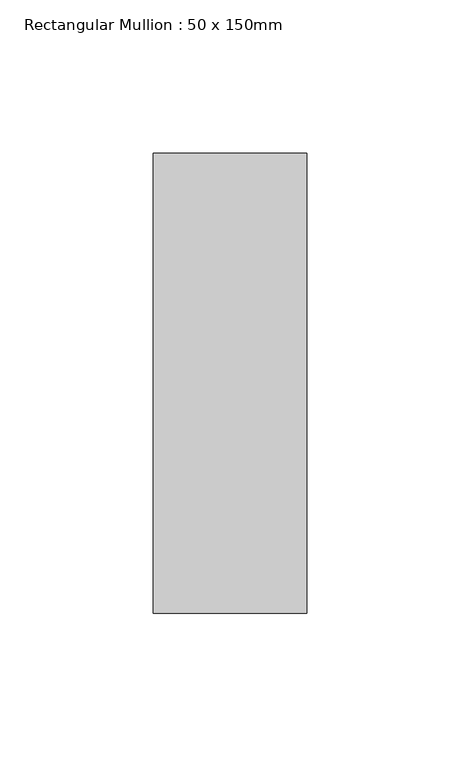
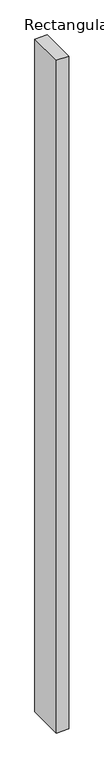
"""IFC4 building model written with IfcOpenShell, lengths in millimetres: member geometry, Rectangular Mullion : 50 x 150mm."""

import ifcopenshell
import ifcopenshell.guid

model = None  # the IFC model being written
_history = None  # IfcOwnerHistory: only IFC2X3 demands one
_inside = {}  # id of a spatial element -> (the spatial element, [elements in it])
_under = {}  # id of a project, library or spatial element -> (it, [spatial elements below it])
_declared = {}  # id of a project -> (the project, [libraries it declares])
_typed = {}  # id of a type object -> (the type object, [elements of that type])
_made_of = {}  # id of a material, layer set ... -> (it, [elements and type objects made of it])


def new_model(schema):
    """Start an empty IFC model of exactly this schema.

    Asked for "IFC4X3", IfcOpenShell would pick the latest addendum, in which some entities
    have other attributes; the version numbers below select the first issue.
    IFC2X3 requires an IfcOwnerHistory on every rooted entity: one is made here for all.
    """
    global model, _history
    if schema == "IFC4X3":
        model = ifcopenshell.file(schema_version=(4, 3, 0, 0))
    else:
        model = ifcopenshell.file(schema=schema)
    _inside.clear()
    _under.clear()
    _declared.clear()
    _typed.clear()
    _made_of.clear()
    _history = None
    if model.schema == "IFC2X3":
        org = make("IfcOrganization", Name="unknown")
        user = make(
            "IfcPersonAndOrganization",
            ThePerson=make("IfcPerson", FamilyName="unknown"),
            TheOrganization=org,
        )
        app = make(
            "IfcApplication",
            ApplicationDeveloper=org,
            Version="unknown",
            ApplicationFullName="unknown",
            ApplicationIdentifier="unknown",
        )
        _history = make(
            "IfcOwnerHistory",
            OwningUser=user,
            OwningApplication=app,
            ChangeAction="ADDED",
            CreationDate=0,
        )
    return model


def make(cls, **values):
    """One entity of the class cls with the attributes given. An attribute that is None is left unset."""
    return model.create_entity(
        cls, **{name: value for name, value in values.items() if value is not None}
    )


def rooted(cls, **values):
    """An entity with a GlobalId (a new one), such as an element, a storey or a relation."""
    return make(cls, GlobalId=ifcopenshell.guid.new(), OwnerHistory=_history, **values)


def si_unit(unit_type, name, prefix=None):
    """IfcSIUnit, for example si_unit("LENGTHUNIT", "METRE", prefix="MILLI")."""
    return make("IfcSIUnit", UnitType=unit_type, Prefix=prefix, Name=name)


def assignment(units):
    """IfcUnitAssignment: the units of a project."""
    return None if units is None else make("IfcUnitAssignment", Units=units)


def point(xyz):
    """IfcCartesianPoint."""
    return None if xyz is None else make("IfcCartesianPoint", Coordinates=xyz)


def direction(xyz):
    """IfcDirection."""
    return None if xyz is None else make("IfcDirection", DirectionRatios=xyz)


def frame(location, z_axis=None, x_axis=None):
    """IfcAxis2Placement3D, a coordinate frame: its origin and axes. An axis left out is left unset."""
    return make(
        "IfcAxis2Placement3D",
        Location=point(location),
        Axis=direction(z_axis),
        RefDirection=direction(x_axis),
    )


def origin():
    """The frame at (0, 0, 0) with its axes left unset."""
    return frame((0.0, 0.0, 0.0))


def place(relative_to, where):
    """IfcLocalPlacement: puts the frame where relative to a parent placement (None: the world)."""
    return make(
        "IfcLocalPlacement", PlacementRelTo=relative_to, RelativePlacement=where
    )


def context(
    kind, dimensions, precision=None, world=None, true_north=None, identifier=None
):
    """IfcGeometricRepresentationContext, for example the 3D "Model" context."""
    return make(
        "IfcGeometricRepresentationContext",
        ContextIdentifier=identifier,
        ContextType=kind,
        CoordinateSpaceDimension=dimensions,
        Precision=precision,
        WorldCoordinateSystem=world,
        TrueNorth=true_north,
    )


def project(units=None, contexts=None):
    """IfcProject with its units and contexts."""
    return rooted(
        "IfcProject",
        Name="project",
        RepresentationContexts=contexts,
        UnitsInContext=assignment(units),
    )


def spatial(cls, under=None, at=None, **own):
    """A site, building, storey or space (cls), placed at a placement, below another one or the project."""
    s = rooted(cls, ObjectPlacement=at, **own)
    if under is not None:
        _under.setdefault(under.id(), (under, []))[1].append(s)
    return s


def polyline(points):
    """IfcPolyline through the points."""
    return make("IfcPolyline", Points=[point(p) for p in points])


def outline(outer, holes=None, kind="AREA"):
    """IfcArbitraryClosedProfileDef: a profile drawn as a closed curve; with holes, ...WithVoids."""
    if holes is None:
        return make("IfcArbitraryClosedProfileDef", ProfileType=kind, OuterCurve=outer)
    return make(
        "IfcArbitraryProfileDefWithVoids",
        ProfileType=kind,
        OuterCurve=outer,
        InnerCurves=holes,
    )


def extrude(swept, where, along, depth):
    """IfcExtrudedAreaSolid: the profile swept, set in the frame where, extruded along a direction by depth."""
    return make(
        "IfcExtrudedAreaSolid",
        SweptArea=swept,
        Position=where,
        ExtrudedDirection=direction(along),
        Depth=depth,
    )


def shape(context_of_items, identifier, shape_type, items):
    """IfcShapeRepresentation: the items that make up one representation, for example the "Body"."""
    return make(
        "IfcShapeRepresentation",
        ContextOfItems=context_of_items,
        RepresentationIdentifier=identifier,
        RepresentationType=shape_type,
        Items=items,
    )


def source(mapping_origin, context_of_items, identifier, shape_type, items):
    """IfcRepresentationMap: a shape defined once, which mapped items show again and again."""
    return make(
        "IfcRepresentationMap",
        MappingOrigin=mapping_origin,
        MappedRepresentation=shape(context_of_items, identifier, shape_type, items),
    )


def transform(
    local_origin,
    x_axis=None,
    y_axis=None,
    z_axis=None,
    scale=None,
    scale2=None,
    scale3=None,
    uniform=True,
):
    """IfcCartesianTransformationOperator3D, or its non-uniform kind. x_axis, y_axis, z_axis: its Axis1, 2, 3."""
    if uniform:
        return make(
            "IfcCartesianTransformationOperator3D",
            Axis1=direction(x_axis),
            Axis2=direction(y_axis),
            LocalOrigin=point(local_origin),
            Scale=scale,
            Axis3=direction(z_axis),
        )
    return make(
        "IfcCartesianTransformationOperator3DnonUniform",
        Axis1=direction(x_axis),
        Axis2=direction(y_axis),
        LocalOrigin=point(local_origin),
        Scale=scale,
        Axis3=direction(z_axis),
        Scale2=scale2,
        Scale3=scale3,
    )


def mapped(mapping_source, mapping_target):
    """IfcMappedItem: shows the shape of a source again, moved by a transform."""
    return make(
        "IfcMappedItem", MappingSource=mapping_source, MappingTarget=mapping_target
    )


def made_of(thing, what):
    """Note that an element or type object is made of a material, layer set ...; save() writes the relation."""
    if what is not None:
        _made_of.setdefault(what.id(), (what, []))[1].append(thing)
    return thing


def element(
    cls,
    number,
    at=None,
    inside=None,
    cuts=None,
    type_object=None,
    material=None,
    context=None,
    identifier="Body",
    shape_type=None,
    held_by="IfcProductDefinitionShape",
    body=None,
    shapes=None,
    **own,
):
    """One element of the class cls, such as IfcWall. Its Tag is "e" and its number.

    at: its placement. inside: the storey or other place that contains it. cuts: it is an
    opening in that element (IfcRelVoidsElement). A single representation is given by context,
    identifier, shape_type and body (its items); several are given by shapes. held_by: the class
    of the entity that holds the representations. save() writes the other relations.
    """
    e = rooted(cls, Tag="e%d" % number, ObjectPlacement=at, **own)
    if body is not None:
        shapes = [shape(context, identifier, shape_type, body)]
    if shapes is not None:
        e.Representation = make(held_by, Representations=shapes)
    if inside is not None:
        _inside.setdefault(inside.id(), (inside, []))[1].append(e)
    if cuts is not None:
        rooted(
            "IfcRelVoidsElement", RelatingBuildingElement=cuts, RelatedOpeningElement=e
        )
    if type_object is not None:
        _typed.setdefault(type_object.id(), (type_object, []))[1].append(e)
    return made_of(e, material)


def aggregate(whole, parts):
    """IfcRelAggregates: a whole, such as a stair, and the parts it consists of."""
    return rooted("IfcRelAggregates", RelatingObject=whole, RelatedObjects=parts)


def save(model, path):
    """Write the relations noted so far, then the file.

    IfcRelAggregates (storeys below a building ...), IfcRelContainedInSpatialStructure (elements
    in a storey), IfcRelDefinesByType, IfcRelAssociatesMaterial and IfcRelDeclares: one each for
    every whole, place, type object, material and project.
    """
    for whole, parts in _under.values():
        aggregate(whole, parts)
    for where, things in _inside.values():
        rooted(
            "IfcRelContainedInSpatialStructure",
            RelatedElements=things,
            RelatingStructure=where,
        )
    for kind, things in _typed.values():
        rooted("IfcRelDefinesByType", RelatedObjects=things, RelatingType=kind)
    for what, things in _made_of.values():
        rooted("IfcRelAssociatesMaterial", RelatedObjects=things, RelatingMaterial=what)
    for by, libraries in _declared.values():
        rooted("IfcRelDeclares", RelatingContext=by, RelatedDefinitions=libraries)
    model.write(path)


def rectangular_mullion_50_x_150mm_2bd3e109(model_context):
    return source(origin(), model_context, "Body", "SweptSolid", [
        extrude(outline(polyline([(0.0, 75.0), (0.0, -75.0), (-50.0, -75.0), (-50.0, 75.0), (0.0, 75.0)])), frame((0.0, 0.0, -2875.0), z_axis=(0.0, 0.0, 1.0), x_axis=(1.0, 0.0, 0.0)), (0.0, 0.0, 1.0), 2875.0),
    ])


if __name__ == "__main__":
    model = new_model("IFC4")
    model_context = context("Model", 3, world=origin())
    ifc_project = project(units=[si_unit("LENGTHUNIT", "METRE", prefix="MILLI")], contexts=[model_context])
    site = spatial("IfcSite", under=ifc_project)
    building = spatial("IfcBuilding", under=site)
    placement = place(None, origin())
    rectangular_mullion_50_x_150mm_shape = rectangular_mullion_50_x_150mm_2bd3e109(model_context)
    element("IfcMember", 1, ObjectType="Rectangular Mullion : 50 x 150mm", at=placement, inside=building, context=model_context, shape_type="MappedRepresentation", body=[
        mapped(rectangular_mullion_50_x_150mm_shape, transform((0.0, 0.0, 0.0), x_axis=(1.0, 0.0, 0.0), y_axis=(0.0, 1.0, 0.0), z_axis=(0.0, 0.0, 1.0))),
    ])
    save(model, "model.ifc")
